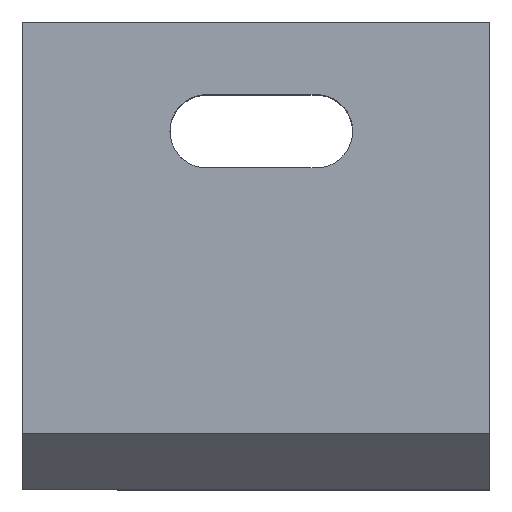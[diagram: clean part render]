
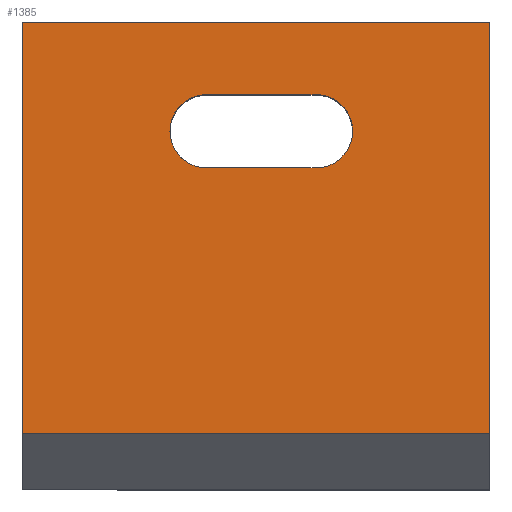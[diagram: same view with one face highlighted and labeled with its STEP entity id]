
A CAD part, top view. The second image highlights one B-rep face of the part: STEP entity #1385.
In plain terms, the highlighted planar face has unit normal (0, 0, 1).
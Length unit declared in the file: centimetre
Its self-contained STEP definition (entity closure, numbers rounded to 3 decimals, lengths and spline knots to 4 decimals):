
#38 = CARTESIAN_POINT ( 'NONE',  ( 0., 119.7133, 1000. ) ) ;
#102 = AXIS2_PLACEMENT_3D ( 'NONE', #396, #2208, #1115 ) ;
#115 = CARTESIAN_POINT ( 'NONE',  ( 0., 0., 1000. ) ) ;
#125 = VERTEX_POINT ( 'NONE', #955 ) ;
#140 = LINE ( 'NONE', #1766, #654 ) ;
#148 = EDGE_CURVE ( 'NONE', #490, #539, #2090, .T. ) ;
#200 = DIRECTION ( 'NONE',  ( -1., 0., 0. ) ) ;
#201 = VERTEX_POINT ( 'NONE', #335 ) ;
#216 = LINE ( 'NONE', #729, #1234 ) ;
#309 = CARTESIAN_POINT ( 'NONE',  ( 1000., 119.7133, 1000. ) ) ;
#322 = DIRECTION ( 'NONE',  ( 1., 0., 0. ) ) ;
#325 = DIRECTION ( 'NONE',  ( 0., 1., 0. ) ) ;
#335 = CARTESIAN_POINT ( 'NONE',  ( 394.3762, 844.6137, 1000. ) ) ;
#349 = CARTESIAN_POINT ( 'NONE',  ( 628.4637, 687.6061, 1000. ) ) ;
#396 = CARTESIAN_POINT ( 'NONE',  ( 628.4637, 766.1099, 1000. ) ) ;
#400 = VECTOR ( 'NONE', #325, 100. ) ;
#405 = ORIENTED_EDGE ( 'NONE', *, *, #1419, .T. ) ;
#409 = VECTOR ( 'NONE', #857, 100. ) ;
#484 = VERTEX_POINT ( 'NONE', #1806 ) ;
#490 = VERTEX_POINT ( 'NONE', #349 ) ;
#531 = CARTESIAN_POINT ( 'NONE',  ( 628.4637, 766.1099, 1000. ) ) ;
#539 = VERTEX_POINT ( 'NONE', #1295 ) ;
#607 = EDGE_CURVE ( 'NONE', #1617, #490, #140, .T. ) ;
#648 = DIRECTION ( 'NONE',  ( 1., 0., 0. ) ) ;
#654 = VECTOR ( 'NONE', #648, 100. ) ;
#692 = CIRCLE ( 'NONE', #2341, 78.5038 ) ;
#729 = CARTESIAN_POINT ( 'NONE',  ( 628.4637, 844.6137, 1000. ) ) ;
#779 = EDGE_CURVE ( 'NONE', #1469, #125, #1416, .T. ) ;
#856 = DIRECTION ( 'NONE',  ( 0., 0., 1. ) ) ;
#857 = DIRECTION ( 'NONE',  ( 1., 0., 0. ) ) ;
#900 = EDGE_CURVE ( 'NONE', #539, #484, #1503, .T. ) ;
#924 = EDGE_CURVE ( 'NONE', #484, #201, #216, .T. ) ;
#955 = CARTESIAN_POINT ( 'NONE',  ( 1000., 1000., 1000. ) ) ;
#961 = ORIENTED_EDGE ( 'NONE', *, *, #924, .F. ) ;
#964 = EDGE_CURVE ( 'NONE', #201, #1617, #692, .T. ) ;
#969 = CARTESIAN_POINT ( 'NONE',  ( 1000., 119.7133, 1000. ) ) ;
#984 = CARTESIAN_POINT ( 'NONE',  ( 0., 1000., 1000. ) ) ;
#1011 = ORIENTED_EDGE ( 'NONE', *, *, #779, .T. ) ;
#1037 = LINE ( 'NONE', #309, #409 ) ;
#1050 = AXIS2_PLACEMENT_3D ( 'NONE', #531, #856, #322 ) ;
#1065 = ORIENTED_EDGE ( 'NONE', *, *, #900, .F. ) ;
#1069 = DIRECTION ( 'NONE',  ( 0., -1., 0. ) ) ;
#1115 = DIRECTION ( 'NONE',  ( 1., 0., 0. ) ) ;
#1138 = VECTOR ( 'NONE', #1897, 100. ) ;
#1184 = EDGE_CURVE ( 'NONE', #1965, #2315, #1424, .T. ) ;
#1234 = VECTOR ( 'NONE', #200, 100. ) ;
#1271 = CARTESIAN_POINT ( 'NONE',  ( 394.3762, 766.1099, 1000. ) ) ;
#1280 = ORIENTED_EDGE ( 'NONE', *, *, #607, .F. ) ;
#1295 = CARTESIAN_POINT ( 'NONE',  ( 706.9675, 766.1099, 1000. ) ) ;
#1338 = ORIENTED_EDGE ( 'NONE', *, *, #964, .F. ) ;
#1339 = LINE ( 'NONE', #984, #1138 ) ;
#1357 = VECTOR ( 'NONE', #1069, 100. ) ;
#1377 = EDGE_CURVE ( 'NONE', #125, #1965, #1339, .T. ) ;
#1385 = ADVANCED_FACE ( 'NONE', ( #1777, #1981 ), #2291, .T. ) ;
#1416 = LINE ( 'NONE', #2157, #400 ) ;
#1419 = EDGE_CURVE ( 'NONE', #2315, #1469, #1037, .T. ) ;
#1424 = LINE ( 'NONE', #2168, #1357 ) ;
#1435 = AXIS2_PLACEMENT_3D ( 'NONE', #115, #1969, #1753 ) ;
#1469 = VERTEX_POINT ( 'NONE', #969 ) ;
#1503 = CIRCLE ( 'NONE', #102, 78.5038 ) ;
#1507 = CARTESIAN_POINT ( 'NONE',  ( 394.3762, 687.6061, 1000. ) ) ;
#1531 = EDGE_LOOP ( 'NONE', ( #2111, #405, #1011, #1639 ) ) ;
#1617 = VERTEX_POINT ( 'NONE', #1507 ) ;
#1639 = ORIENTED_EDGE ( 'NONE', *, *, #1377, .T. ) ;
#1657 = DIRECTION ( 'NONE',  ( 0., 0., 1. ) ) ;
#1670 = EDGE_LOOP ( 'NONE', ( #1338, #961, #1065, #2028, #1280 ) ) ;
#1753 = DIRECTION ( 'NONE',  ( 1., 0., 0. ) ) ;
#1766 = CARTESIAN_POINT ( 'NONE',  ( 394.3762, 687.6061, 1000. ) ) ;
#1777 = FACE_BOUND ( 'NONE', #1670, .T. ) ;
#1801 = CARTESIAN_POINT ( 'NONE',  ( 0., 1000., 1000. ) ) ;
#1806 = CARTESIAN_POINT ( 'NONE',  ( 628.4637, 844.6137, 1000. ) ) ;
#1897 = DIRECTION ( 'NONE',  ( -1., 0., 0. ) ) ;
#1965 = VERTEX_POINT ( 'NONE', #1801 ) ;
#1969 = DIRECTION ( 'NONE',  ( 0., 0., 1. ) ) ;
#1981 = FACE_OUTER_BOUND ( 'NONE', #1531, .T. ) ;
#2028 = ORIENTED_EDGE ( 'NONE', *, *, #148, .F. ) ;
#2090 = CIRCLE ( 'NONE', #1050, 78.5038 ) ;
#2111 = ORIENTED_EDGE ( 'NONE', *, *, #1184, .T. ) ;
#2157 = CARTESIAN_POINT ( 'NONE',  ( 1000., 1000., 1000. ) ) ;
#2168 = CARTESIAN_POINT ( 'NONE',  ( 0., 1000., 1000. ) ) ;
#2185 = DIRECTION ( 'NONE',  ( 1., 0., 0. ) ) ;
#2208 = DIRECTION ( 'NONE',  ( 0., 0., 1. ) ) ;
#2291 = PLANE ( 'NONE',  #1435 ) ;
#2315 = VERTEX_POINT ( 'NONE', #38 ) ;
#2341 = AXIS2_PLACEMENT_3D ( 'NONE', #1271, #1657, #2185 ) ;
